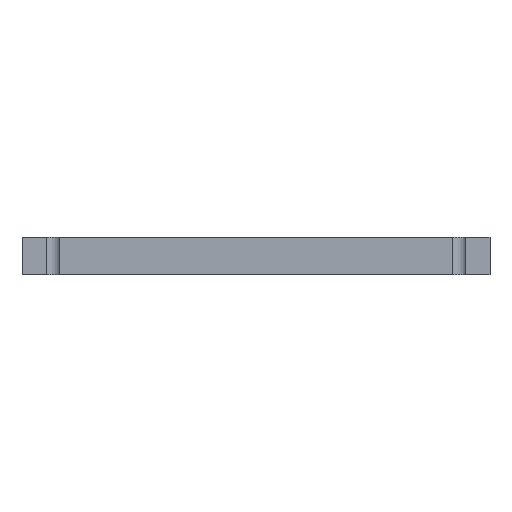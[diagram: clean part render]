
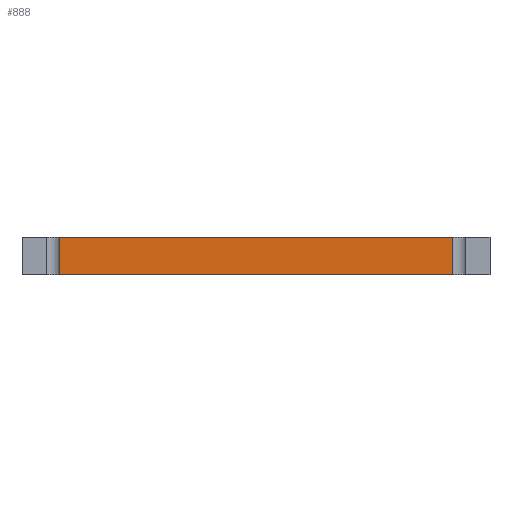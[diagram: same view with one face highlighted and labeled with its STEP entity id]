
A CAD part, left-side view. The second image highlights one B-rep face of the part: STEP entity #888.
In plain terms, the highlighted planar face has unit normal (-1, 0, 0).
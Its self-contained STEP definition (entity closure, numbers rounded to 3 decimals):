
#108=FACE_OUTER_BOUND('',#164,.T.);
#164=EDGE_LOOP('',(#759,#760,#761,#762));
#222=LINE('',#1375,#314);
#243=LINE('',#1440,#335);
#256=LINE('',#1474,#348);
#257=LINE('',#1480,#349);
#314=VECTOR('',#1108,10.);
#335=VECTOR('',#1169,10.);
#348=VECTOR('',#1196,10.);
#349=VECTOR('',#1203,10.);
#407=VERTEX_POINT('',#1372);
#408=VERTEX_POINT('',#1374);
#432=VERTEX_POINT('',#1438);
#446=VERTEX_POINT('',#1472);
#506=EDGE_CURVE('',#408,#407,#222,.T.);
#539=EDGE_CURVE('',#407,#432,#243,.T.);
#556=EDGE_CURVE('',#446,#432,#256,.T.);
#559=EDGE_CURVE('',#408,#446,#257,.T.);
#759=ORIENTED_EDGE('',*,*,#539,.T.);
#760=ORIENTED_EDGE('',*,*,#556,.F.);
#761=ORIENTED_EDGE('',*,*,#559,.F.);
#762=ORIENTED_EDGE('',*,*,#506,.T.);
#850=PLANE('',#982);
#888=ADVANCED_FACE('',(#108),#850,.T.);
#982=AXIS2_PLACEMENT_3D('',#1479,#1201,#1202);
#1108=DIRECTION('',(0.,1.,0.));
#1169=DIRECTION('',(0.,0.,-1.));
#1196=DIRECTION('',(0.,1.,0.));
#1201=DIRECTION('center_axis',(-1.,0.,0.));
#1202=DIRECTION('ref_axis',(0.,0.,1.));
#1203=DIRECTION('',(0.,0.,-1.));
#1372=CARTESIAN_POINT('',(137.003,479.7,12.));
#1374=CARTESIAN_POINT('',(137.003,353.245,12.));
#1375=CARTESIAN_POINT('',(137.003,353.245,12.));
#1438=CARTESIAN_POINT('',(137.003,479.7,0.));
#1440=CARTESIAN_POINT('',(137.003,479.7,6.));
#1472=CARTESIAN_POINT('',(137.003,353.245,0.));
#1474=CARTESIAN_POINT('',(137.003,353.245,0.));
#1479=CARTESIAN_POINT('Origin',(137.003,353.245,0.));
#1480=CARTESIAN_POINT('',(137.003,353.245,12.));
